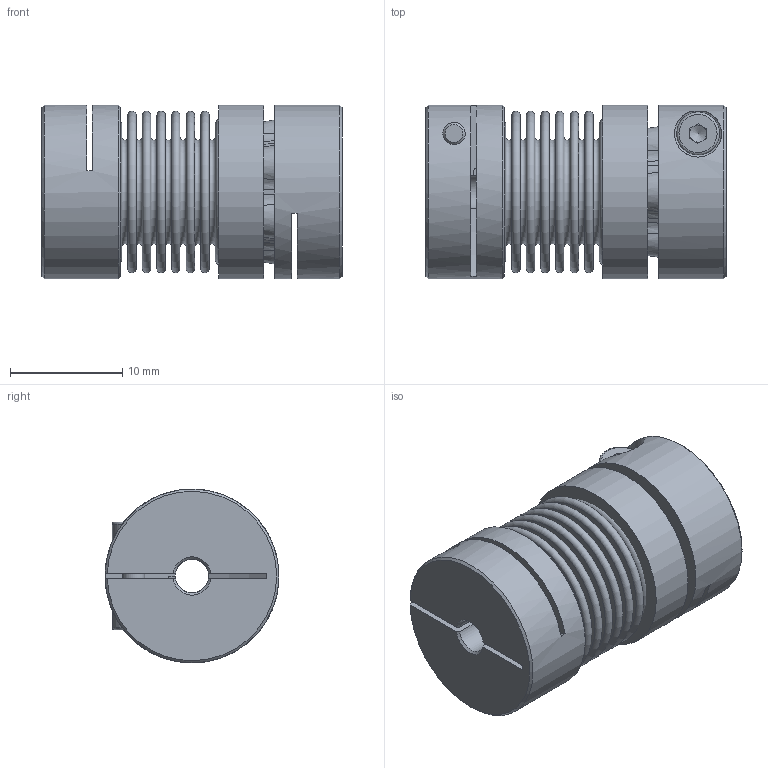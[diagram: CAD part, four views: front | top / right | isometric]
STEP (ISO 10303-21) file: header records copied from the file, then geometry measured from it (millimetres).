
FILE_DESCRIPTION( ( 'KBE1/14 - N7H8 - N14H7 - 98 Sh' ), '1' );
FILE_NAME( 'K:/Konstruktion/Fertigungszeichnungen/Metallbalgkupplung/KB2P/5-10/KB2P-10-27.stp', '14.12.2015', ( 'KBK-Antriebstechnik' ), ( 'KBK-Antriebstechnik' ), 'PSStep 16.0.42', 'Solid Edge St6', ' ' );
FILE_SCHEMA( ( 'AUTOMOTIVE_DESIGN { 1 0 10303 214 1 1 1 1 }' ) );
Length unit declared in the file: millimetre
Products named in the file (6): Assem1; Stecknabe KB2P-10; Socket Head Cap Screw_DIN_DIN 912 M2 x 8 --- 8N_5; KN5_Standard_2; Balgaufnahme KB2P-10_für Step; BK10_Standard_0
Assembly tree (6 placements, depth 2):
  Assem1
    Stecknabe KB2P-10
    Socket Head Cap Screw_DIN_DIN 912 M2 x 8 --- 8N_5  x2
    KN5_Standard_2
    Balgaufnahme KB2P-10_für Step
    BK10_Standard_0
Bounding box: 26.75 x 15.5 x 15.5 mm (x, y, z)
Volume: 3174.9 mm3; surface area: 6184.4 mm2
Topology: 6 solids, 6 shells, 196 faces, 438 edges, 285 vertices
Faces by surface type: plane 83, cone 54, torus 35, cylinder 24
Full cylindrical faces by diameter (mm): 1.567 x1, 2 x3, 2.2 x2, 3 x2, 3.8 x2, 12.9 x2, 13.1 x2, 15.5 x3
Entity records: 6399 total; most frequent: CARTESIAN_POINT 1022, DIRECTION 877, ORIENTED_EDGE 662, AXIS2_PLACEMENT_3D 390, EDGE_CURVE 331, EDGE_LOOP 273, VERTEX_POINT 261, FACE_OUTER_BOUND 223
